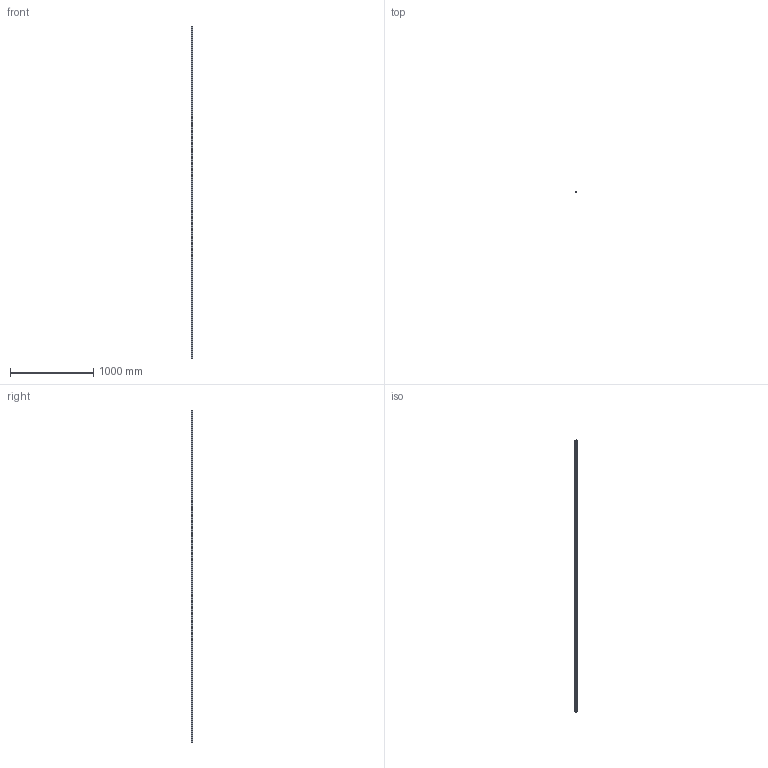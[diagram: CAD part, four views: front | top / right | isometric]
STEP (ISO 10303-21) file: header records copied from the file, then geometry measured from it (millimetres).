
FILE_DESCRIPTION (( 'STEP AP203' ), '1' );
FILE_NAME ('L1016.BL20-4000.step', '2019-06-12T11:59:31', ( '' ), ( '' ), 'SwSTEP 2.0', 'SolidWorks 2017', '' );
FILE_SCHEMA (( 'CONFIG_CONTROL_DESIGN' ));
Length unit declared in the file: millimetre
Products named in the file (1): L1016.BL20-4000
Bounding box: 20 x 16.3 x 4000 mm (x, y, z)
Volume: 1111983.9 mm3; surface area: 321495.2 mm2
Topology: 1 solids, 1 shells, 361 faces, 876 edges, 584 vertices
Faces by surface type: cylinder 272, plane 89
Entity records: 11219 total; most frequent: DIRECTION 2144, CARTESIAN_POINT 1822, ORIENTED_EDGE 1752, AXIS2_PLACEMENT_3D 906, EDGE_CURVE 876, VERTEX_POINT 584, EDGE_LOOP 562, CIRCLE 544
